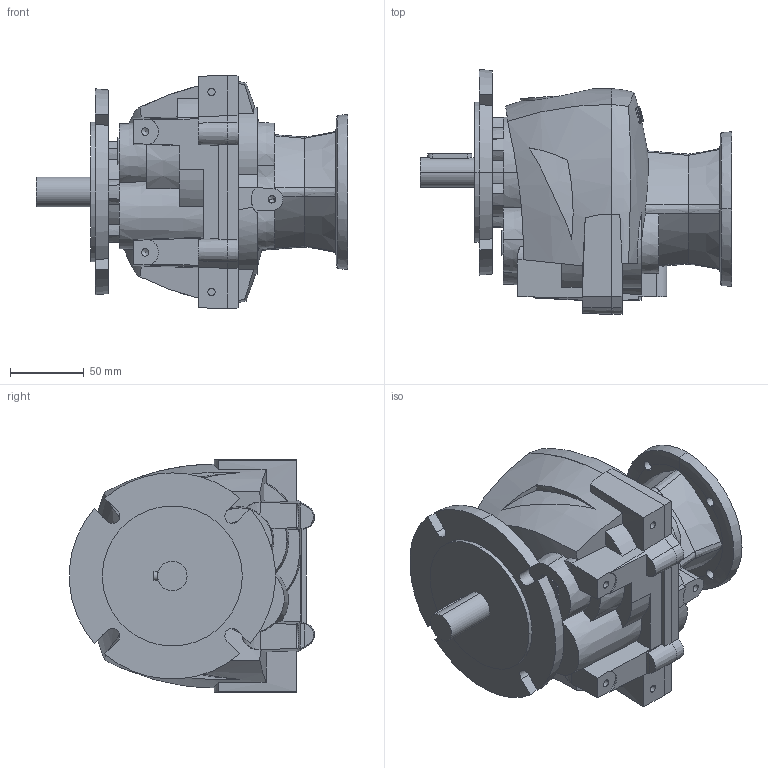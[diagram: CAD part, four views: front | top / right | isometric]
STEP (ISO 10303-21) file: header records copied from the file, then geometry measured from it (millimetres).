
FILE_DESCRIPTION (( 'STEP AP203' ), '1' );
FILE_NAME ('RBA2_IFL71B4_OFL140_OSH20L40.STEP', '2013-02-07T10:23:27', ( '' ), ( '' ), 'SwSTEP 2.0', 'SolidWorks 2012', '' );
FILE_SCHEMA (( 'CONFIG_CONTROL_DESIGN' ));
Length unit declared in the file: millimetre
Products named in the file (1): RBA2_IFL71B4_OFL140_OSH20L40
Bounding box: 211.5 x 166.28 x 158 mm (x, y, z)
Volume: 1913395.1 mm3; surface area: 147167 mm2
Topology: 1 solids, 1 shells, 468 faces, 1325 edges, 881 vertices
Faces by surface type: plane 220, cylinder 124, bspline 66, cone 54, torus 4
Entity records: 20646 total; most frequent: CARTESIAN_POINT 9496, ORIENTED_EDGE 2638, DIRECTION 1859, EDGE_CURVE 1319, VERTEX_POINT 879, AXIS2_PLACEMENT_3D 689, B_SPLINE_CURVE_WITH_KNOTS 513, EDGE_LOOP 502
